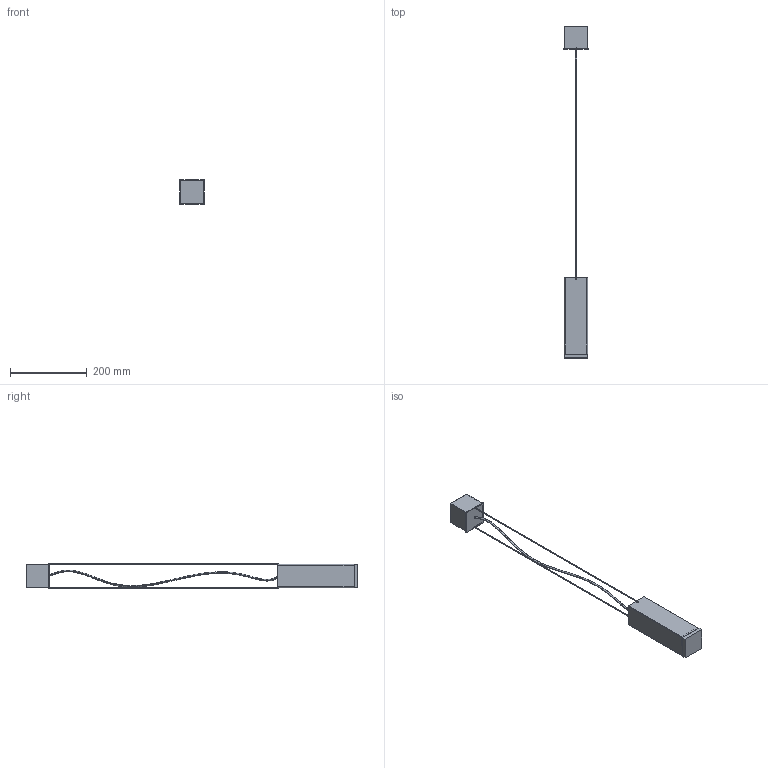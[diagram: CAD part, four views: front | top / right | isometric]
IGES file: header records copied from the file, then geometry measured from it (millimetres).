
Start section: SolidWorks IGES file using analytic representation for surfaces
Global section: file name: C:\Users\Asia\Desktop\Brice\Bryce S 5673,5680,5676.IGS; native system: SolidWorks 2016; preprocessor: SolidWorks 2016; author: Asia; date: 160727.151531; units: millimetre
Bounding box: 64 x 862.98 x 64 mm (x, y, z)
Surface area: 162654.9 mm2 (no closed solid volume)
Topology: 0 solids, 0 shells, 105 faces, 1385 edges, 1385 vertices
Faces by surface type: bspline 68, revolution 37
